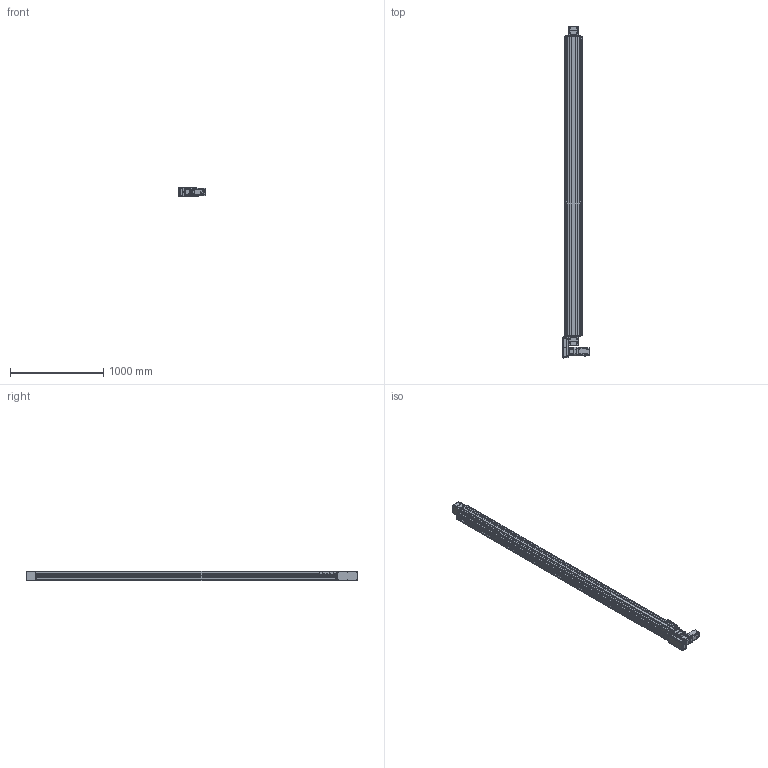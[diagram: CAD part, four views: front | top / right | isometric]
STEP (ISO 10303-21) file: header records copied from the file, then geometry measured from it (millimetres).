
FILE_DESCRIPTION(/* description */ (''),/* implementation_level */ '2;1');
FILE_NAME(/* name */ '\\192.168.0.160\disk1\HAN SHIN Master\B-설계부문\C-표준\B-2024년\BC02-표준도면\+로봇 개선표준도면\홈페이지 표준 도면\홈페이지 최종 작업 폴더\3D\HSB\HSB160\HSB160-L7G-N-3000-R.stp',/* time_stamp */ '2025-01-09T17:04:38+09:00',/* author */ ('user'),/* organization */ (''),/* preprocessor_version */ 'ST-DEVELOPER v18.1',/* originating_system */ 'Autodesk Inventor 2022',/* authorisation */ '');
FILE_SCHEMA (('AUTOMOTIVE_DESIGN { 1 0 10303 214 3 1 1 }'));
Products named in the file (42): HSB160-L7G-N-0500-R; BASE; HSB160 TABLE (TEST); FORNT HOUSUNG-1 (Connecting); UPCOVER; HSB160 COVER-1; REAR HOUSUNG-1---; HSB160 REAR SHAFT-2; REAR SHAFT--2; 6004ZZ; 6004ZZ Outer ring; 6004ZZ Shield1; 6004ZZ Inner ring; 6004ZZ Ball; 6004ZZ Shield2; STOPPER3; TENSION PLATE; HSB160 ARC COVER; hsr_ftht_A-M6F_grease_nipple_joint; NIPPLE CAP(신규); SIDE COVER; hg-kr73_; PGX90-H-1_3; L MOTOR PLATE ASSY; HG160 750W LR MOTOR PLATE-사출; HR160 400W LR BELT COVER; HR180 ACRYL COVER - 1; HR180 ACRYL COVER - 1_1; 750W MOTOR PLATE; HR180 ACRYL COVER - 1_2; HSB160 BEARING OVER; HSB160 END COVER; HSB160 SHAFT-1; 6206ZZ; 6206ZZ Outer ring; 6206ZZ Shield1; 6206ZZ Inner ring; 6206ZZ Ball; 6206ZZ Shield2; HR120 SENSOR DOG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
Assembly tree (87 placements, depth 3):
  HSB160-L7G-N-0500-R
    BASE
    HSB160 TABLE (TEST)
    FORNT HOUSUNG-1 (Connecting)
    UPCOVER
    HSB160 COVER-1  x2
    REAR HOUSUNG-1---
    6004ZZ  x2
      6004ZZ Outer ring
      6004ZZ Shield1
      6004ZZ Inner ring
      6004ZZ Ball
      6004ZZ Shield2
    HSB160 REAR SHAFT-2
    REAR SHAFT--2
    TENSION PLATE  x2
    HSB160 ARC COVER  x4
    STOPPER3  x4
    SIDE COVER  x2
    hsr_ftht_A-M6F_grease_nipple_joint  x4
    NIPPLE CAP(신규)  x4
    hg-kr73_
    PGX90-H-1_3
    L MOTOR PLATE ASSY
      HG160 750W LR MOTOR PLATE-사출
      HR160 400W LR BELT COVER
      HR180 ACRYL COVER - 1
      HR180 ACRYL COVER - 1_1
      HR180 ACRYL COVER - 1_2  x2
      750W MOTOR PLATE
    HSB160 BEARING OVER
    HSB160 END COVER
    6206ZZ  x2
      6206ZZ Outer ring
      6206ZZ Shield1
      6206ZZ Inner ring
      6206ZZ Ball
      6206ZZ Shield2
    HSB160 SHAFT-1
    HR120 SENSOR DOG
    SENSOR BRK(EE-SX674A)  x3
    EE_SX674A  x3
Bounding box: 284.5 x 3553.5 x 107 mm (x, y, z)
Volume: 19605725.9 mm3; surface area: 4892880.3 mm2
Topology: 131 solids, 133 shells, 6585 faces, 18121 edges, 11912 vertices
Faces by surface type: plane 4605, cylinder 1425, cone 383, sphere 88, torus 59, bspline 25
Full cylindrical faces by diameter (mm): 2.013 x2, 2.459 x52, 3 x20, 3.242 x50, 3.4 x20, 3.5 x6, 4.134 x18, 4.2 x4, 4.5 x40, 4.917 x82, 5 x44, 5.1 x1, 5.5 x25, 5.6 x4, 5.9 x4, 6 x23, 6.5 x9, 6.6 x18, 6.8 x9, 7 x32, 7.6 x4, 8 x5, 8.376 x24, 8.433 x2, 9 x4, 9.5 x31, 10 x5, 11 x28, 15 x8, 18.5 x2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
Entity records: 122042 total; most frequent: CARTESIAN_POINT 23064, DIRECTION 20334, ORIENTED_EDGE 19714, EDGE_CURVE 9857, AXIS2_PLACEMENT_3D 6929, VERTEX_POINT 6519, LINE 6476, VECTOR 6476
